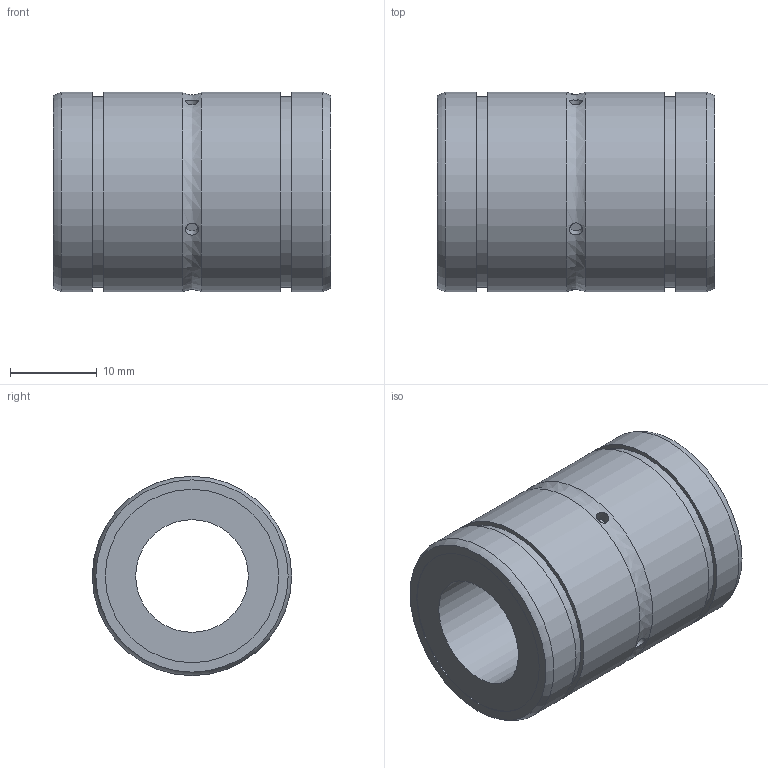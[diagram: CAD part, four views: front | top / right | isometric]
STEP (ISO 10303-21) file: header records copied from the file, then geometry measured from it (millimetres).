
FILE_DESCRIPTION((''),'2;1');
FILE_NAME('D:\製品 (図面)\カタログ用3D\リニアベアリング関連\STEP形式\L-OH\L13-OH.stp','2010-06-04T09:29:54',('Tsuchiya'),(''),'Autodesk Inventor 10','Autodesk Inventor 10','');
FILE_SCHEMA(('AUTOMOTIVE_DESIGN { 1 0 10303 214 1 1 1 1 }'));
Length unit declared in the file: millimetre
Products named in the file (1): L13-OH
Bounding box: 32 x 23 x 23 mm (x, y, z)
Volume: 8856.9 mm3; surface area: 4304.5 mm2
Topology: 1 solids, 1 shells, 28 faces, 48 edges, 32 vertices
Faces by surface type: cylinder 13, plane 8, bspline 5, torus 2
Full cylindrical faces by diameter (mm): 13 x1, 20 x2, 22 x2, 23 x4
Entity records: 1035 total; most frequent: CARTESIAN_POINT 573, DIRECTION 88, ORIENTED_EDGE 56, EDGE_LOOP 56, AXIS2_PLACEMENT_3D 44, VERTEX_POINT 28, EDGE_CURVE 28, FACE_OUTER_BOUND 28
